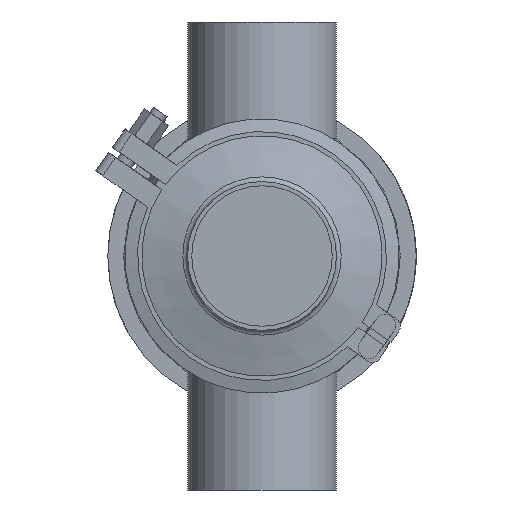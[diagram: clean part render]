
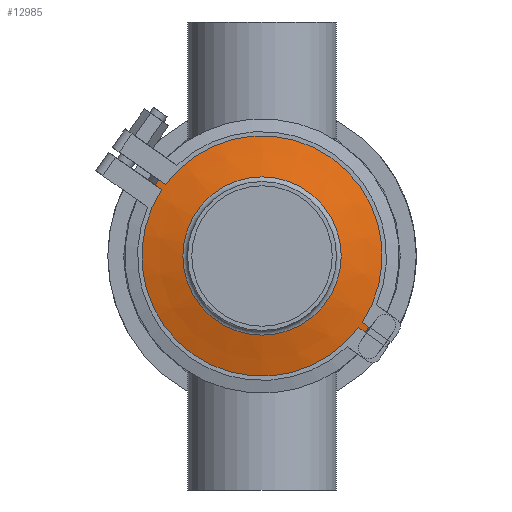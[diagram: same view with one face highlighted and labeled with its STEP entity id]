
A CAD part, front view. The second image highlights one B-rep face of the part: STEP entity #12985.
In plain terms, the highlighted conical face has half-angle 75 degrees and reference radius 60.5 mm.
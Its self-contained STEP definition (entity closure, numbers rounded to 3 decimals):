
#1166 = EDGE_LOOP ( 'NONE', ( #14910 ) ) ;
#2138 = DIRECTION ( 'NONE',  ( 0., 1., 0. ) ) ;
#2285 = AXIS2_PLACEMENT_3D ( 'NONE', #8981, #15358, #11989 ) ;
#2475 = EDGE_CURVE ( 'NONE', #9643, #9643, #14897, .T. ) ;
#2487 = FACE_BOUND ( 'NONE', #1166, .T. ) ;
#2524 = VERTEX_POINT ( 'NONE', #18221 ) ;
#2593 = FACE_OUTER_BOUND ( 'NONE', #17173, .T. ) ;
#4135 = EDGE_CURVE ( 'NONE', #2524, #2524, #13439, .T. ) ;
#4520 = DIRECTION ( 'NONE',  ( 0., 1., 0. ) ) ;
#6240 = AXIS2_PLACEMENT_3D ( 'NONE', #18157, #2138, #16279 ) ;
#8981 = CARTESIAN_POINT ( 'NONE',  ( 0., 5.5, 0. ) ) ;
#9643 = VERTEX_POINT ( 'NONE', #16040 ) ;
#11989 = DIRECTION ( 'NONE',  ( 0., 0., 1. ) ) ;
#12985 = ADVANCED_FACE ( 'NONE', ( #2487, #2593 ), #19347, .T. ) ;
#13439 = CIRCLE ( 'NONE', #19153, 37.224 ) ;
#14713 = ORIENTED_EDGE ( 'NONE', *, *, #2475, .F. ) ;
#14897 = CIRCLE ( 'NONE', #6240, 60.5 ) ;
#14910 = ORIENTED_EDGE ( 'NONE', *, *, #4135, .T. ) ;
#15358 = DIRECTION ( 'NONE',  ( 0., 1., 0. ) ) ;
#16040 = CARTESIAN_POINT ( 'NONE',  ( 0., 5.5, 60.5 ) ) ;
#16279 = DIRECTION ( 'NONE',  ( 0., 0., 1. ) ) ;
#17173 = EDGE_LOOP ( 'NONE', ( #14713 ) ) ;
#17485 = DIRECTION ( 'NONE',  ( 0., 0., 1. ) ) ;
#17583 = CARTESIAN_POINT ( 'NONE',  ( 0., -0.737, 0. ) ) ;
#18157 = CARTESIAN_POINT ( 'NONE',  ( 0., 5.5, 0. ) ) ;
#18221 = CARTESIAN_POINT ( 'NONE',  ( 0., -0.737, 37.224 ) ) ;
#19153 = AXIS2_PLACEMENT_3D ( 'NONE', #17583, #4520, #17485 ) ;
#19347 = CONICAL_SURFACE ( 'NONE', #2285, 60.5, 1.309 ) ;
